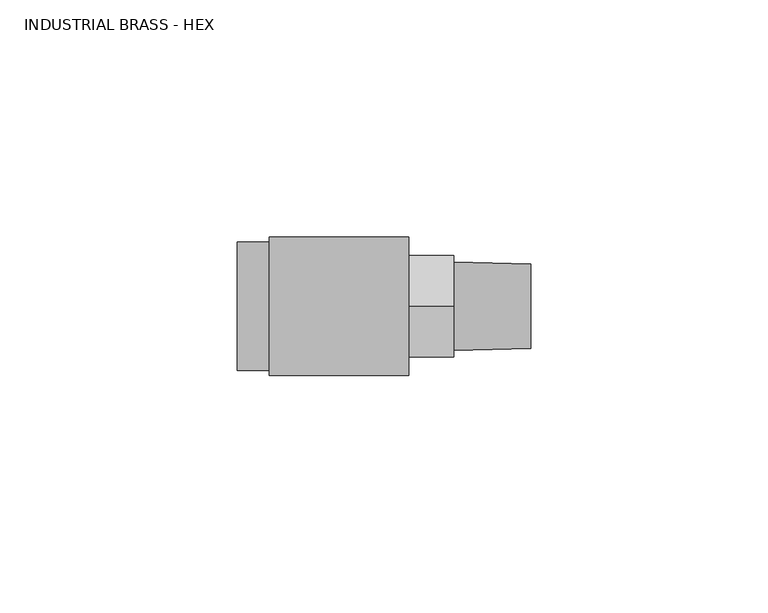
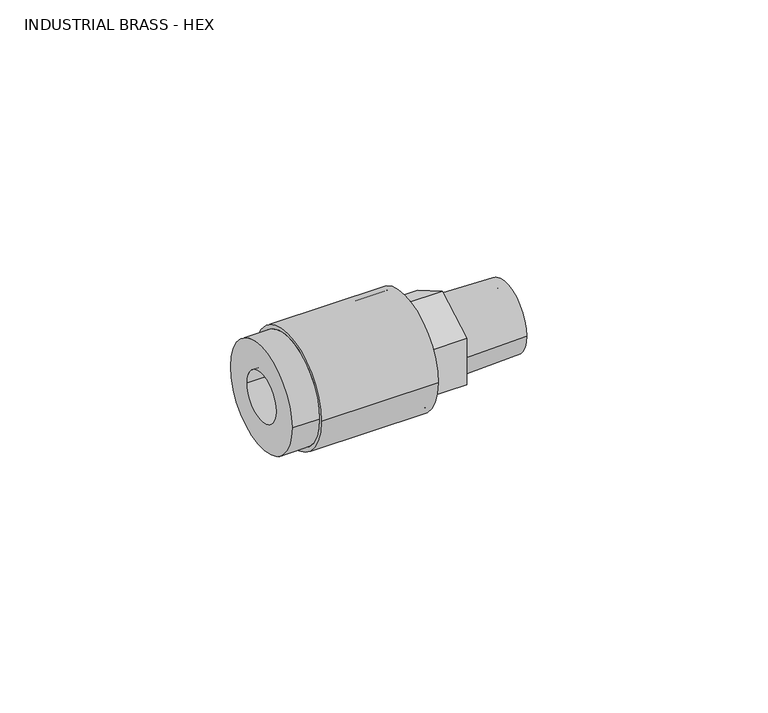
"""IFC4 building model written with IfcOpenShell, lengths in millimetres: pipe fitting geometry, Aquatherm - Fusion Outlet Transition Male : INDUSTRIAL BRASS - HEX."""

from ifc_helpers import new_model, si_unit, frame, origin, place, context, project, spatial, polyline, circle_curve, source, transform, mapped, element, save
from ifc_brep_helpers import plane_surface, cylinder_surface, revolved_surface, advanced_brep


def industrial_brass_hex_0639478e(model_context):
    return source(origin(), model_context, "Body", "AdvancedBrep", [
        advanced_brep(
        [(9.445625, -13.589, 0.0), (9.445625, 13.589, 0.0), (9.445625, -6.35, 0.0), (9.445625, 6.35, 0.0), (29.257625, -13.589, 0.0), (29.257625, 13.589, 0.0), (29.257625, 0.0, -12.3183453), (29.257625, -10.668, -6.1591727), (29.257625, -10.668, 6.1591727), (29.257625, 0.0, 12.3183453), (29.257625, 10.668, 6.1591727), (29.257625, 10.668, -6.1591727), (29.257625, 6.35, 0.0), (29.257625, -6.35, 0.0), (38.909625, 0.0, -12.3183453), (38.909625, 10.668, -6.1591727), (38.909625, 10.668, 6.1591727), (38.909625, 0.0, 12.3183453), (38.909625, -10.668, 6.1591727), (38.909625, -10.668, -6.1591727), (38.909625, -9.3810449, 0.0), (38.909625, 9.3810449, 0.0), (38.909625, 6.35, 0.0), (38.909625, -6.35, 0.0), (55.165625, -6.35, 0.0), (55.165625, 6.35, 0.0), (55.165625, -8.8752051, 0.0), (55.165625, 8.8752051, 0.0)],
        [
            (0, 1, circle_curve(frame((9.445625, 0.0, 0.0), z_axis=(-1.0, 0.0, 0.0), x_axis=(0.0, 1.0, 0.0)), 13.589)),
            (1, 0, circle_curve(frame((9.445625, 0.0, 0.0), z_axis=(-1.0, 0.0, 0.0), x_axis=(0.0, 1.0, 0.0)), 13.589)),
            (2, 3, circle_curve(frame((9.445625, 0.0, 0.0), z_axis=(1.0, 0.0, 0.0), x_axis=(0.0, 1.0, 0.0)), 6.35)),
            (3, 2, circle_curve(frame((9.445625, 0.0, 0.0), z_axis=(1.0, 0.0, 0.0), x_axis=(0.0, 1.0, 0.0)), 6.35)),
            (4, 5, circle_curve(frame((29.257625, 0.0, 0.0), z_axis=(1.0, 0.0, 0.0), x_axis=(0.0, 1.0, 0.0)), 13.589)),
            (5, 4, circle_curve(frame((29.257625, 0.0, 0.0), z_axis=(1.0, 0.0, 0.0), x_axis=(0.0, 1.0, 0.0)), 13.589)),
            (6, 7),
            (7, 8),
            (8, 9),
            (9, 10),
            (10, 11),
            (11, 6),
            (1, 5),
            (4, 0),
            (3, 12),
            (12, 13, circle_curve(frame((29.257625, 0.0, 0.0), z_axis=(1.0, 0.0, 0.0), x_axis=(0.0, 1.0, 0.0)), 6.35)),
            (13, 2),
            (13, 12, circle_curve(frame((29.257625, 0.0, 0.0), z_axis=(1.0, 0.0, 0.0), x_axis=(0.0, 1.0, 0.0)), 6.35)),
            (14, 15),
            (15, 16),
            (16, 17),
            (17, 18),
            (18, 19),
            (19, 14),
            (20, 21, circle_curve(frame((38.909625, 0.0, 0.0), z_axis=(-1.0, 0.0, 0.0), x_axis=(0.0, 1.0, 0.0)), 9.3810449)),
            (21, 20, circle_curve(frame((38.909625, 0.0, 0.0), z_axis=(-1.0, 0.0, 0.0), x_axis=(0.0, 1.0, 0.0)), 9.3810449)),
            (14, 6),
            (11, 15),
            (10, 16),
            (9, 17),
            (8, 18),
            (7, 19),
            (12, 22),
            (22, 23, circle_curve(frame((38.909625, 0.0, 0.0), z_axis=(1.0, 0.0, 0.0), x_axis=(0.0, 1.0, 0.0)), 6.35)),
            (23, 13),
            (23, 22, circle_curve(frame((38.909625, 0.0, 0.0), z_axis=(1.0, 0.0, 0.0), x_axis=(0.0, 1.0, 0.0)), 6.35)),
            (23, 24),
            (24, 25, circle_curve(frame((55.165625, 0.0, 0.0), z_axis=(1.0, 0.0, 0.0), x_axis=(0.0, 1.0, 0.0)), 6.35)),
            (25, 22),
            (25, 24, circle_curve(frame((55.165625, 0.0, 0.0), z_axis=(1.0, 0.0, 0.0), x_axis=(0.0, 1.0, 0.0)), 6.35)),
            (24, 26),
            (26, 27, circle_curve(frame((55.165625, 0.0, 0.0), z_axis=(1.0, 0.0, 0.0), x_axis=(0.0, 1.0, 0.0)), 8.8752051)),
            (27, 25),
            (27, 26, circle_curve(frame((55.165625, 0.0, 0.0), z_axis=(1.0, 0.0, 0.0), x_axis=(0.0, 1.0, 0.0)), 8.8752051)),
            (26, 20),
            (21, 27),
        ],
        [
            plane_surface(frame((9.445625, 13.589, 0.0), z_axis=(-1.0, 0.0, 0.0), x_axis=(0.0, 0.0, 1.0))),
            plane_surface(frame((29.257625, 13.589, 0.0), z_axis=(1.0, 0.0, 0.0), x_axis=(0.0, 0.0, -1.0))),
            cylinder_surface(frame((29.257625, 0.0, 0.0), z_axis=(-1.0, 0.0, 0.0), x_axis=(0.0, 1.0, 0.0)), 13.589),
            revolved_surface(polyline([(29.257625, 6.35, 0.0), (9.445625, 6.35, 0.0)]), (11.810406, 0.0, 0.0), (1.0, 0.0, 0.0)),
            plane_surface(frame((38.909625, 0.0, -12.3183453), z_axis=(1.0, 0.0, 0.0), x_axis=(0.0, -0.8660254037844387, -0.5))),
            plane_surface(frame((29.257625, 0.0, -12.3183453), z_axis=(0.0, 0.5, -0.8660254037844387), x_axis=(1.0, 0.0, 0.0))),
            plane_surface(frame((29.257625, 10.668, -6.1591727), z_axis=(0.0, 1.0, 0.0), x_axis=(1.0, 0.0, 0.0))),
            plane_surface(frame((29.257625, 10.668, 6.1591727), z_axis=(0.0, 0.49999999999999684, 0.8660254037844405), x_axis=(1.0, 0.0, 0.0))),
            plane_surface(frame((29.257625, 0.0, 12.3183453), z_axis=(0.0, -0.5000000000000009, 0.8660254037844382), x_axis=(1.0, 0.0, 0.0))),
            plane_surface(frame((29.257625, -10.668, 6.1591727), z_axis=(0.0, -1.0, 0.0), x_axis=(1.0, 0.0, 0.0))),
            plane_surface(frame((29.257625, -10.668, -6.1591727), z_axis=(0.0, -0.49999999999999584, -0.8660254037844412), x_axis=(1.0, 0.0, 0.0))),
            revolved_surface(polyline([(38.909625, 6.35, 0.0), (29.257625, 6.35, 0.0)]), (29.257625, 0.0, 0.0), (1.0, 0.0, 0.0)),
            revolved_surface(polyline([(55.165625, 6.35, 0.0), (38.909625, 6.35, 0.0)]), (90.0386938, 0.0, 0.0), (1.0, 0.0, 0.0)),
            plane_surface(frame((55.165625, 0.0, 0.0), z_axis=(1.0, 0.0, 0.0), x_axis=(0.0, 1.0, 0.0))),
            revolved_surface(polyline([(38.909625, 9.3810449, 0.0), (55.165625, 8.8752051, 0.0)]), (90.0386938, 0.0, 0.0), (1.0, 0.0, 0.0)),
        ],
        [
            (0, [[1, 2], [3, 4]]),
            (1, [[5, 6], [7, 8, 9, 10, 11, 12]]),
            (2, [[13, -5, 14, -2]]),
            (2, [[-14, -6, -13, -1]]),
            (3, [[15, 16, 17, -4]]),
            (3, [[-17, 18, -15, -3]]),
            (4, [[19, 20, 21, 22, 23, 24], [25, 26]]),
            (5, [[27, -12, 28, -19]]),
            (6, [[-28, -11, 29, -20]]),
            (7, [[-29, -10, 30, -21]]),
            (8, [[-30, -9, 31, -22]]),
            (9, [[-31, -8, 32, -23]]),
            (10, [[-32, -7, -27, -24]]),
            (11, [[-16, 33, 34, 35]]),
            (11, [[36, -33, -18, -35]]),
            (12, [[-36, 37, 38, 39]]),
            (12, [[40, -37, -34, -39]]),
            (13, [[41, 42, 43, -38]]),
            (13, [[-43, 44, -41, -40]]),
            (14, [[45, -26, 46, -42]]),
            (14, [[-46, -25, -45, -44]]),
        ],
    ),
        advanced_brep(
        [(9.4257813, -13.5929688, 0.0), (9.4257813, 13.5929687, 0.0), (9.4257813, -6.35, 0.0), (9.4257813, 6.35, 0.0), (-6.7962162, 6.35, 0.0), (-6.7962162, -6.35, 0.0), (-6.7962162, 13.5929688, 0.0), (0.0, 13.5929688, 0.0), (0.0, -13.5929688, 0.0), (-6.7962162, -13.5929688, 0.0), (29.4441562, -14.6347656, 0.0), (29.4441562, 14.6347656, 0.0), (29.4441562, -13.5929688, 0.0), (29.4441562, 13.5929687, 0.0), (0.0, -14.6347656, 0.0), (0.0, 14.6347656, 0.0)],
        [
            (0, 1, circle_curve(frame((9.4257813, 0.0, 0.0), z_axis=(1.0, 0.0, 0.0), x_axis=(0.0, 1.0, 0.0)), 13.5929688)),
            (1, 0, circle_curve(frame((9.4257813, 0.0, 0.0), z_axis=(1.0, 0.0, 0.0), x_axis=(0.0, 1.0, 0.0)), 13.5929688)),
            (2, 3, circle_curve(frame((9.4257813, 0.0, 0.0), z_axis=(-1.0, 0.0, 0.0), x_axis=(0.0, 1.0, 0.0)), 6.35)),
            (3, 2, circle_curve(frame((9.4257813, 0.0, 0.0), z_axis=(-1.0, 0.0, 0.0), x_axis=(0.0, 1.0, 0.0)), 6.35)),
            (4, 3),
            (2, 5),
            (5, 4, circle_curve(frame((-6.7962162, 0.0, 0.0), z_axis=(-1.0, 0.0, 0.0), x_axis=(0.0, 1.0, 0.0)), 6.35)),
            (4, 5, circle_curve(frame((-6.7962162, 0.0, 0.0), z_axis=(-1.0, 0.0, 0.0), x_axis=(0.0, 1.0, 0.0)), 6.35)),
            (6, 7),
            (7, 8, circle_curve(frame((0.0, 0.0, 0.0), z_axis=(-1.0, 0.0, 0.0), x_axis=(0.0, 1.0, 0.0)), 13.5929688)),
            (8, 9),
            (9, 6, circle_curve(frame((-6.7962162, 0.0, 0.0), z_axis=(1.0, 0.0, 0.0), x_axis=(0.0, 1.0, 0.0)), 13.5929688)),
            (8, 7, circle_curve(frame((0.0, 0.0, 0.0), z_axis=(-1.0, 0.0, 0.0), x_axis=(0.0, 1.0, 0.0)), 13.5929688)),
            (6, 9, circle_curve(frame((-6.7962162, 0.0, 0.0), z_axis=(1.0, 0.0, 0.0), x_axis=(0.0, 1.0, 0.0)), 13.5929688)),
            (10, 11, circle_curve(frame((29.4441562, 0.0, 0.0), z_axis=(1.0, 0.0, 0.0), x_axis=(0.0, 1.0, 0.0)), 14.6347656)),
            (11, 10, circle_curve(frame((29.4441562, 0.0, 0.0), z_axis=(1.0, 0.0, 0.0), x_axis=(0.0, 1.0, 0.0)), 14.6347656)),
            (12, 13, circle_curve(frame((29.4441562, 0.0, 0.0), z_axis=(-1.0, 0.0, 0.0), x_axis=(0.0, 1.0, 0.0)), 13.5929688)),
            (13, 12, circle_curve(frame((29.4441562, 0.0, 0.0), z_axis=(-1.0, 0.0, 0.0), x_axis=(0.0, 1.0, 0.0)), 13.5929688)),
            (12, 0),
            (1, 13),
            (10, 14),
            (14, 15, circle_curve(frame((0.0, 0.0, 0.0), z_axis=(1.0, 0.0, 0.0), x_axis=(0.0, 1.0, 0.0)), 14.6347656)),
            (15, 11),
            (15, 14, circle_curve(frame((0.0, 0.0, 0.0), z_axis=(1.0, 0.0, 0.0), x_axis=(0.0, 1.0, 0.0)), 14.6347656)),
        ],
        [
            plane_surface(frame((9.4257813, 6.35, 0.0), z_axis=(1.0, 0.0, 0.0), x_axis=(0.0, 0.0, 1.0))),
            revolved_surface(polyline([(9.4257813, 6.35, 0.0), (-6.7962162, 6.35, 0.0)]), (9.4257813, 0.0, 0.0), (1.0, 0.0, 0.0)),
            cylinder_surface(frame((0.0, 0.0, 0.0), z_axis=(-1.0, 0.0, 0.0), x_axis=(0.0, 1.0, 0.0)), 13.5929688),
            plane_surface(frame((29.4441562, 13.5929687, 0.0), z_axis=(1.0, 0.0, 0.0), x_axis=(0.0, 0.0, 1.0))),
            revolved_surface(polyline([(29.4441562, 13.5929688, 0.0), (9.4257813, 13.5929688, 0.0)]), (29.4441562, 0.0, 0.0), (1.0, 0.0, 0.0)),
            cylinder_surface(frame((0.0, 0.0, 0.0), z_axis=(-1.0, 0.0, 0.0), x_axis=(0.0, 1.0, 0.0)), 14.6347656),
            plane_surface(frame((-6.7962162, 6.35, 0.0), z_axis=(-1.0, 0.0, 0.0), x_axis=(0.0, 0.0, -1.0))),
            plane_surface(frame((0.0, 13.5929687, 0.0), z_axis=(-1.0, 0.0, 0.0), x_axis=(0.0, 0.0, -1.0))),
        ],
        [
            (0, [[1, 2], [3, 4]]),
            (1, [[5, -3, 6, 7]]),
            (1, [[-6, -4, -5, 8]]),
            (2, [[9, 10, 11, 12]]),
            (2, [[-11, 13, -9, 14]]),
            (3, [[15, 16], [17, 18]]),
            (4, [[19, -2, 20, -17]]),
            (4, [[-20, -1, -19, -18]]),
            (5, [[21, 22, 23, -15]]),
            (5, [[-23, 24, -21, -16]]),
            (6, [[-14, -12], [-8, -7]]),
            (7, [[-24, -22], [-13, -10]]),
        ],
    ),
    ])


if __name__ == "__main__":
    model = new_model("IFC4")
    model_context = context("Model", 3, world=origin())
    ifc_project = project(units=[si_unit("LENGTHUNIT", "METRE", prefix="MILLI")], contexts=[model_context])
    site = spatial("IfcSite", under=ifc_project)
    building = spatial("IfcBuilding", under=site)
    placement = place(None, origin())
    industrial_brass_hex_shape = industrial_brass_hex_0639478e(model_context)
    element("IfcPipeFitting", 1, ObjectType="Aquatherm - Fusion Outlet Transition Male : INDUSTRIAL BRASS - HEX", at=placement, inside=building, context=model_context, shape_type="MappedRepresentation", body=[
        mapped(industrial_brass_hex_shape, transform((0.0, 0.0, 0.0), x_axis=(1.0, 0.0, 0.0), y_axis=(0.0, 1.0, 0.0), z_axis=(0.0, 0.0, 1.0))),
    ])
    save(model, "model.ifc")
